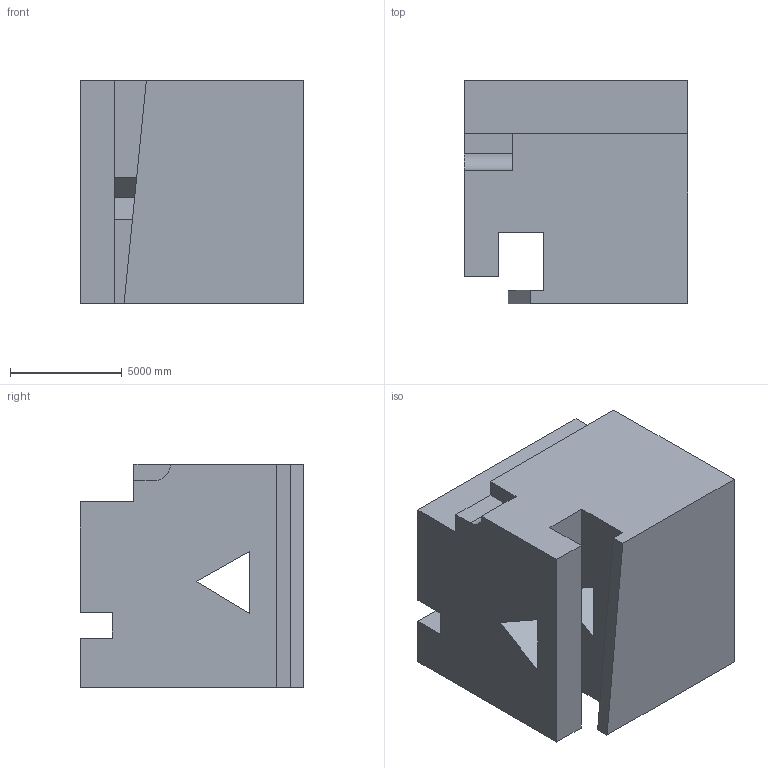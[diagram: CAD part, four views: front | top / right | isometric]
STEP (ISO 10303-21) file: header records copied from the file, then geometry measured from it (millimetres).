
FILE_DESCRIPTION (( 'STEP AP203' ), '1' );
FILE_NAME ('1642.STEP', '2022-08-19T11:17:34', ( 'user' ), ( '' ), 'SwSTEP 2.0', 'SolidWorks 2021', '' );
FILE_SCHEMA (( 'CONFIG_CONTROL_DESIGN' ));
Length unit declared in the file: centimetre
Products named in the file (1): 1642
Bounding box: 10000 x 10000 x 10000 mm (x, y, z)
Volume: 830378636397.5 mm3; surface area: 739841826 mm2
Topology: 1 solids, 1 shells, 30 faces, 87 edges, 58 vertices
Faces by surface type: plane 29, cylinder 1
Entity records: 1058 total; most frequent: CARTESIAN_POINT 176, ORIENTED_EDGE 174, DIRECTION 151, EDGE_CURVE 87, VECTOR 85, LINE 85, VERTEX_POINT 58, EDGE_LOOP 33
